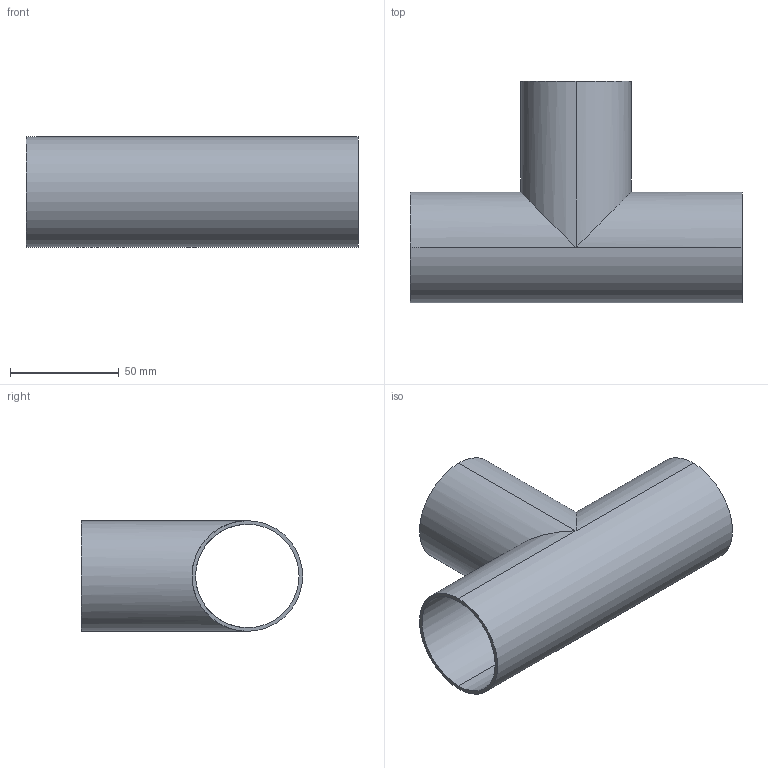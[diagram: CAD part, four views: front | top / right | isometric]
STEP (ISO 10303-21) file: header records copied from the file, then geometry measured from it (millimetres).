
FILE_DESCRIPTION (( 'STEP AP203' ), '1' );
FILE_NAME ('V7W2.0.STEP', '2018-05-11T14:56:38', ( 'vneprd' ), ( 'Microsoft' ), 'SwSTEP 2.0', 'SolidWorks 2014', '' );
FILE_SCHEMA (( 'CONFIG_CONTROL_DESIGN' ));
Length unit declared in the file: inch
Products named in the file (1): V7W2.0
Bounding box: 152.4 x 101.6 x 50.8 mm (x, y, z)
Volume: 50296.4 mm3; surface area: 61685.9 mm2
Topology: 1 solids, 1 shells, 13 faces, 28 edges, 16 vertices
Faces by surface type: cylinder 10, plane 3
Entity records: 437 total; most frequent: CARTESIAN_POINT 70, DIRECTION 64, ORIENTED_EDGE 56, EDGE_CURVE 28, AXIS2_PLACEMENT_3D 26, EDGE_LOOP 16, VERTEX_POINT 16, ADVANCED_FACE 13
